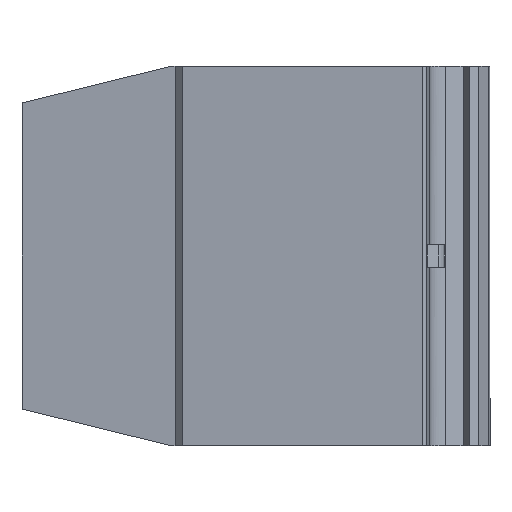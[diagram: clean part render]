
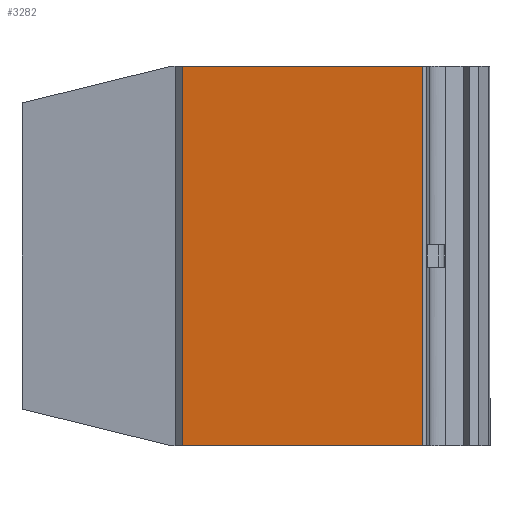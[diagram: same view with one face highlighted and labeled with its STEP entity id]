
A CAD part, left-side view. The second image highlights one B-rep face of the part: STEP entity #3282.
In plain terms, the highlighted planar face has unit normal (-0.993, 0.122, 0).
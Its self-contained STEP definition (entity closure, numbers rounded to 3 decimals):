
#96=DIRECTION('',(-0.122,-0.993,0.));
#97=VECTOR('',#96,31.597);
#98=CARTESIAN_POINT('',(-77.987,-21.01,-24.8));
#99=LINE('',#98,#97);
#284=DIRECTION('',(0.,0.,-1.));
#285=VECTOR('',#284,49.6);
#286=CARTESIAN_POINT('',(-81.838,-52.371,24.8));
#287=LINE('',#286,#285);
#291=DIRECTION('',(0.,0.,1.));
#292=VECTOR('',#291,49.6);
#293=CARTESIAN_POINT('',(-77.987,-21.01,-24.8));
#294=LINE('',#293,#292);
#1449=DIRECTION('',(-0.122,-0.993,0.));
#1450=VECTOR('',#1449,31.597);
#1451=CARTESIAN_POINT('',(-77.987,-21.01,24.8));
#1452=LINE('',#1451,#1450);
#2640=CARTESIAN_POINT('',(-77.987,-21.01,-24.8));
#2642=VERTEX_POINT('',#2640);
#2644=CARTESIAN_POINT('',(-77.987,-21.01,24.8));
#2646=VERTEX_POINT('',#2644);
#2958=CARTESIAN_POINT('',(-81.838,-52.371,-24.8));
#2960=VERTEX_POINT('',#2958);
#2961=CARTESIAN_POINT('',(-81.838,-52.371,24.8));
#2962=VERTEX_POINT('',#2961);
#3269=CARTESIAN_POINT('',(-77.987,-21.01,-24.8));
#3270=DIRECTION('',(-0.993,0.122,0.));
#3271=DIRECTION('',(-0.122,-0.993,0.));
#3272=AXIS2_PLACEMENT_3D('',#3269,#3270,#3271);
#3273=PLANE('',#3272);
#3274=ORIENTED_EDGE('',*,*,#3261,.T.);
#3275=ORIENTED_EDGE('',*,*,#3106,.F.);
#3277=ORIENTED_EDGE('',*,*,#3276,.T.);
#3279=ORIENTED_EDGE('',*,*,#3278,.T.);
#3280=EDGE_LOOP('',(#3274,#3275,#3277,#3279));
#3281=FACE_OUTER_BOUND('',#3280,.F.);
#3282=ADVANCED_FACE('',(#3281),#3273,.T.);
#3106=EDGE_CURVE('',#2642,#2960,#99,.T.);
#3261=EDGE_CURVE('',#2962,#2960,#287,.T.);
#3276=EDGE_CURVE('',#2642,#2646,#294,.T.);
#3278=EDGE_CURVE('',#2646,#2962,#1452,.T.);
